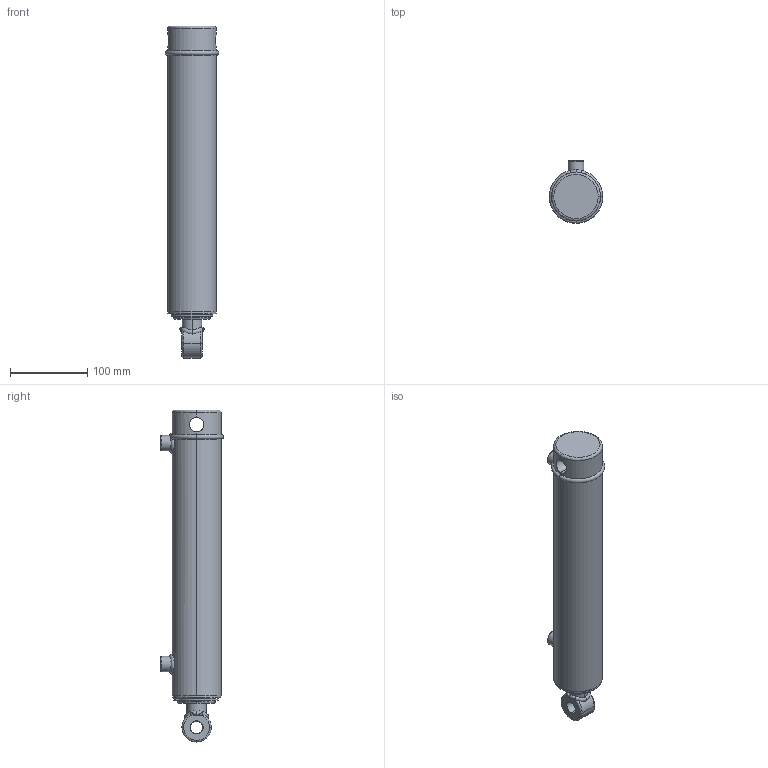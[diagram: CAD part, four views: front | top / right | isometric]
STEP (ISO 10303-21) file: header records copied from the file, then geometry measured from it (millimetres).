
FILE_DESCRIPTION (( 'STEP AP203' ), '1' );
FILE_NAME ('SB-C200100X254 (10).STEP', '2014-12-01T23:42:54', ( '' ), ( '' ), 'SwSTEP 2.0', 'SolidWorks 2014', '' );
FILE_SCHEMA (( 'CONFIG_CONTROL_DESIGN' ));
Length unit declared in the file: millimetre
Products named in the file (5): SB-C200100X254 (10) BODY; 2 inch circlip; SB-C2 10 SPARE; SB-C200100X254 (10)
Assembly tree (4 placements, depth 3):
  SB-C200100X254 (10)
    SB-C200100X254 (10) BODY
    2 inch circlip
    SB-C2 10 SPARE
      SB-C2 10 SPARE
Bounding box: 69.5 x 81.5 x 431 mm (x, y, z)
Volume: 1258660.7 mm3; surface area: 145342.7 mm2
Topology: 3 solids, 3 shells, 130 faces, 324 edges, 203 vertices
Faces by surface type: cylinder 51, bspline 25, plane 25, torus 21, cone 8
Entity records: 9343 total; most frequent: CARTESIAN_POINT 5899, ORIENTED_EDGE 640, DIRECTION 595, EDGE_CURVE 320, AXIS2_PLACEMENT_3D 263, VERTEX_POINT 203, CIRCLE 150, EDGE_LOOP 149
